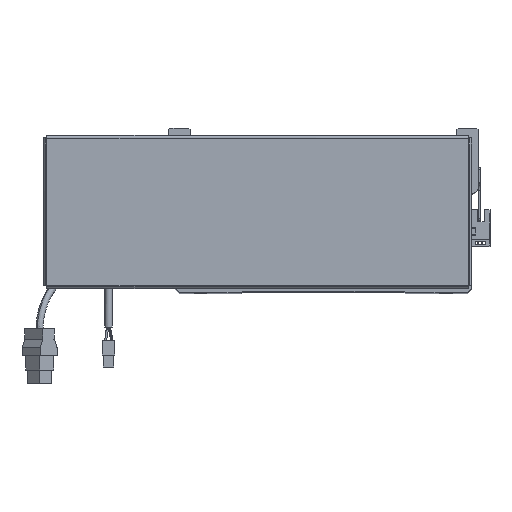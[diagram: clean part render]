
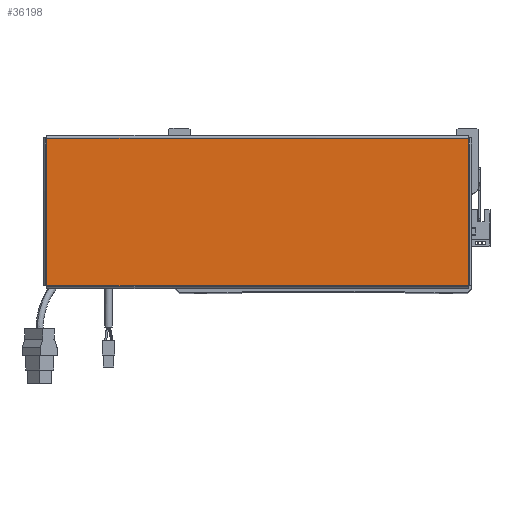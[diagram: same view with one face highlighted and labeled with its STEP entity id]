
A CAD part, top view. The second image highlights one B-rep face of the part: STEP entity #36198.
In plain terms, the highlighted planar face has unit normal (0, 0, 1).
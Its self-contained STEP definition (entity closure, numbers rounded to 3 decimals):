
#6673 = CARTESIAN_POINT ( 'NONE',  ( -156.543, -54.763, 0. ) ) ;
#6848 = LINE ( 'NONE', #60082, #58663 ) ;
#10398 = CARTESIAN_POINT ( 'NONE',  ( 0., 0., 0. ) ) ;
#10620 = EDGE_LOOP ( 'NONE', ( #57833, #19930, #63479, #55877 ) ) ;
#13521 = CARTESIAN_POINT ( 'NONE',  ( -156.513, 54.793, 0. ) ) ;
#14566 = VECTOR ( 'NONE', #37945, 1000. ) ;
#16181 = AXIS2_PLACEMENT_3D ( 'NONE', #10398, #60619, #35656 ) ;
#18469 = VECTOR ( 'NONE', #31285, 1000. ) ;
#19930 = ORIENTED_EDGE ( 'NONE', *, *, #45015, .T. ) ;
#20856 = LINE ( 'NONE', #27857, #14566 ) ;
#23993 = CARTESIAN_POINT ( 'NONE',  ( -156.513, 54.763, 0. ) ) ;
#25785 = EDGE_CURVE ( 'NONE', #44640, #40464, #20856, .T. ) ;
#27857 = CARTESIAN_POINT ( 'NONE',  ( 156.543, 54.763, 0. ) ) ;
#28220 = VERTEX_POINT ( 'NONE', #62490 ) ;
#30377 = PLANE ( 'NONE',  #16181 ) ;
#31285 = DIRECTION ( 'NONE',  ( 1., 0., 0. ) ) ;
#35656 = DIRECTION ( 'NONE',  ( 1., 0., 0. ) ) ;
#36198 = ADVANCED_FACE ( 'NONE', ( #42242 ), #30377, .T. ) ;
#37945 = DIRECTION ( 'NONE',  ( -1., 0., 0. ) ) ;
#39341 = CARTESIAN_POINT ( 'NONE',  ( 156.513, 54.763, 0. ) ) ;
#40464 = VERTEX_POINT ( 'NONE', #23993 ) ;
#41039 = EDGE_CURVE ( 'NONE', #40464, #28220, #50379, .T. ) ;
#42242 = FACE_OUTER_BOUND ( 'NONE', #10620, .T. ) ;
#44640 = VERTEX_POINT ( 'NONE', #39341 ) ;
#45015 = EDGE_CURVE ( 'NONE', #50672, #44640, #6848, .T. ) ;
#50379 = LINE ( 'NONE', #13521, #64478 ) ;
#50672 = VERTEX_POINT ( 'NONE', #52344 ) ;
#52344 = CARTESIAN_POINT ( 'NONE',  ( 156.513, -54.763, 0. ) ) ;
#53481 = DIRECTION ( 'NONE',  ( 0., -1., 0. ) ) ;
#55877 = ORIENTED_EDGE ( 'NONE', *, *, #41039, .T. ) ;
#57833 = ORIENTED_EDGE ( 'NONE', *, *, #61476, .T. ) ;
#58663 = VECTOR ( 'NONE', #59219, 1000. ) ;
#59219 = DIRECTION ( 'NONE',  ( 0., 1., 0. ) ) ;
#60071 = LINE ( 'NONE', #6673, #18469 ) ;
#60082 = CARTESIAN_POINT ( 'NONE',  ( 156.513, -54.793, 0. ) ) ;
#60619 = DIRECTION ( 'NONE',  ( 0., 0., 1. ) ) ;
#61476 = EDGE_CURVE ( 'NONE', #28220, #50672, #60071, .T. ) ;
#62490 = CARTESIAN_POINT ( 'NONE',  ( -156.513, -54.763, 0. ) ) ;
#63479 = ORIENTED_EDGE ( 'NONE', *, *, #25785, .T. ) ;
#64478 = VECTOR ( 'NONE', #53481, 1000. ) ;
